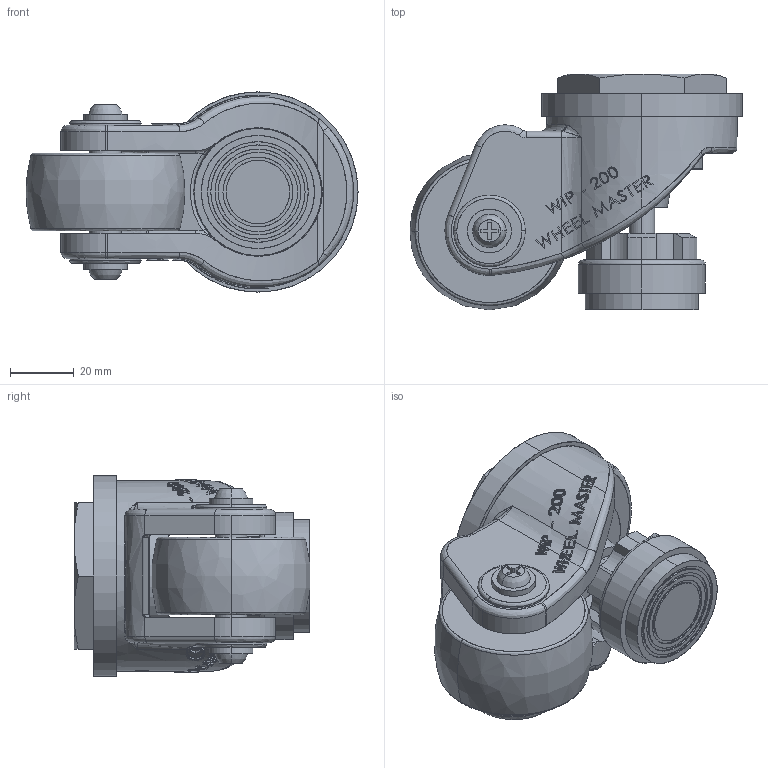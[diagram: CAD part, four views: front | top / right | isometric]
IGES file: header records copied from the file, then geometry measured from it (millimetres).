
Start section: SolidWorks IGES file using analytic representation for surfaces
Bounding box: 104.5 x 74.23 x 63 mm (x, y, z)
Surface area: 55838.1 mm2 (no closed solid volume)
Topology: 0 solids, 0 shells, 683 faces, 10450 edges, 10446 vertices
Faces by surface type: bspline 480, revolution 203
